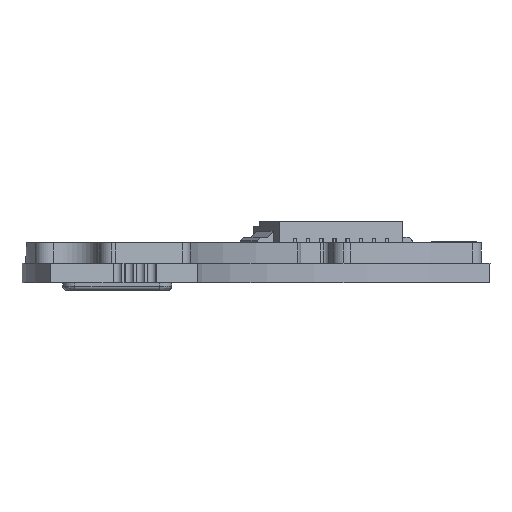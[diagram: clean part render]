
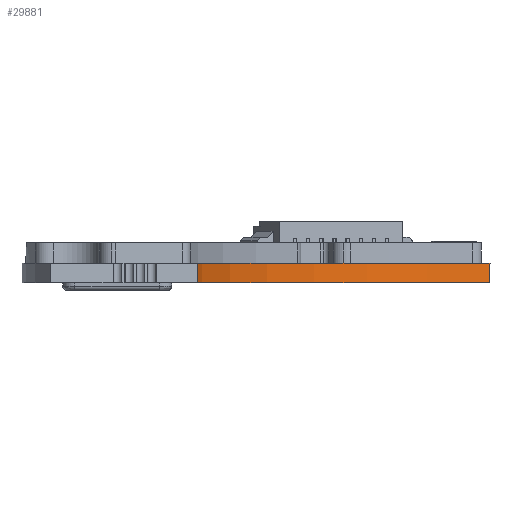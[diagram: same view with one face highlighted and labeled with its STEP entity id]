
A CAD part, left-side view. The second image highlights one B-rep face of the part: STEP entity #29881.
In plain terms, the highlighted cylindrical face has radius 32.2 mm (diameter 64.4 mm), a partial arc.
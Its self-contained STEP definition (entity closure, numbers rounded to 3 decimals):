
#1167 = CARTESIAN_POINT ( 'NONE',  ( 31.554, 6.42, 0. ) ) ;
#1221 = ORIENTED_EDGE ( 'NONE', *, *, #41639, .F. ) ;
#3810 = LINE ( 'NONE', #20840, #33678 ) ;
#7205 = ORIENTED_EDGE ( 'NONE', *, *, #16098, .F. ) ;
#8868 = VERTEX_POINT ( 'NONE', #1167 ) ;
#10051 = FACE_OUTER_BOUND ( 'NONE', #38901, .T. ) ;
#10806 = VERTEX_POINT ( 'NONE', #37191 ) ;
#13464 = CARTESIAN_POINT ( 'NONE',  ( -10.217, 30.536, -1.582 ) ) ;
#13905 = CARTESIAN_POINT ( 'NONE',  ( 0., 0., -1.582 ) ) ;
#14832 = DIRECTION ( 'NONE',  ( 0., 0., -1. ) ) ;
#15284 = ORIENTED_EDGE ( 'NONE', *, *, #37068, .F. ) ;
#16098 = EDGE_CURVE ( 'NONE', #29710, #8868, #20969, .T. ) ;
#18155 = EDGE_CURVE ( 'NONE', #26236, #29710, #3810, .T. ) ;
#20393 = CARTESIAN_POINT ( 'NONE',  ( 0., 0., 0. ) ) ;
#20481 = VECTOR ( 'NONE', #24564, 1000. ) ;
#20840 = CARTESIAN_POINT ( 'NONE',  ( -10.217, 30.536, -1.582 ) ) ;
#20969 = CIRCLE ( 'NONE', #34913, 32.2 ) ;
#22549 = AXIS2_PLACEMENT_3D ( 'NONE', #34305, #14832, #24244 ) ;
#23378 = CYLINDRICAL_SURFACE ( 'NONE', #22549, 32.2 ) ;
#24134 = LINE ( 'NONE', #30667, #20481 ) ;
#24244 = DIRECTION ( 'NONE',  ( -1., 0., 0. ) ) ;
#24564 = DIRECTION ( 'NONE',  ( 0., 0., -1. ) ) ;
#26236 = VERTEX_POINT ( 'NONE', #13464 ) ;
#29159 = ORIENTED_EDGE ( 'NONE', *, *, #18155, .F. ) ;
#29710 = VERTEX_POINT ( 'NONE', #29765 ) ;
#29765 = CARTESIAN_POINT ( 'NONE',  ( -10.217, 30.536, 0. ) ) ;
#29881 = ADVANCED_FACE ( 'NONE', ( #10051 ), #23378, .F. ) ;
#30667 = CARTESIAN_POINT ( 'NONE',  ( 31.554, 6.42, -1.582 ) ) ;
#33678 = VECTOR ( 'NONE', #36999, 1000. ) ;
#34305 = CARTESIAN_POINT ( 'NONE',  ( 0., 0., -1.582 ) ) ;
#34913 = AXIS2_PLACEMENT_3D ( 'NONE', #20393, #37221, #43100 ) ;
#36999 = DIRECTION ( 'NONE',  ( 0., 0., 1. ) ) ;
#37068 = EDGE_CURVE ( 'NONE', #8868, #10806, #24134, .T. ) ;
#37191 = CARTESIAN_POINT ( 'NONE',  ( 31.554, 6.42, -1.582 ) ) ;
#37221 = DIRECTION ( 'NONE',  ( 0., 0., -1. ) ) ;
#37274 = DIRECTION ( 'NONE',  ( 0., 0., 1. ) ) ;
#38901 = EDGE_LOOP ( 'NONE', ( #7205, #29159, #1221, #15284 ) ) ;
#41167 = DIRECTION ( 'NONE',  ( -1., 0., 0. ) ) ;
#41639 = EDGE_CURVE ( 'NONE', #10806, #26236, #42499, .T. ) ;
#41817 = AXIS2_PLACEMENT_3D ( 'NONE', #13905, #37274, #41167 ) ;
#42499 = CIRCLE ( 'NONE', #41817, 32.2 ) ;
#43100 = DIRECTION ( 'NONE',  ( -1., 0., 0. ) ) ;
